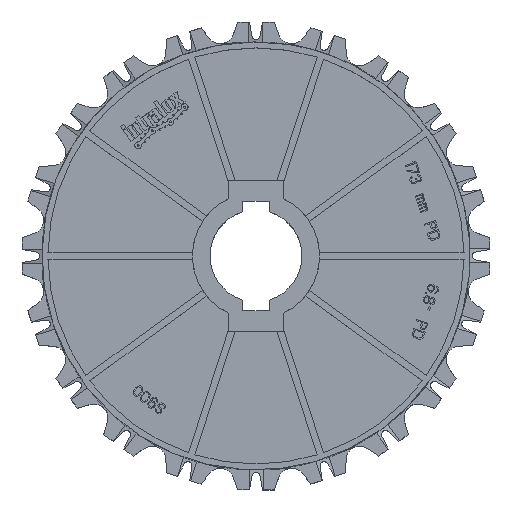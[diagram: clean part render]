
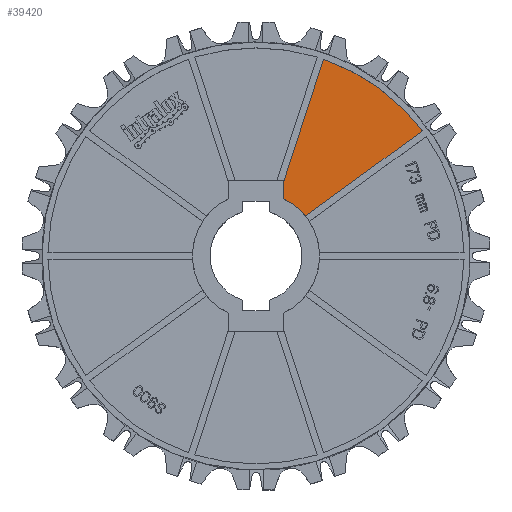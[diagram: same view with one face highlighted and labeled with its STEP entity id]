
A CAD part, top view. The second image highlights one B-rep face of the part: STEP entity #39420.
In plain terms, the highlighted planar face has unit normal (0, 0, 1).
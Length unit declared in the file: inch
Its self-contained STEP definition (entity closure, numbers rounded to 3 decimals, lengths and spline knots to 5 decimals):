
#13207=CARTESIAN_POINT('',(0.,0.,0.09));
#13208=DIRECTION('',(0.,0.,1.));
#13209=DIRECTION('',(0.777,0.63,0.));
#13210=AXIS2_PLACEMENT_3D('',#13207,#13208,#13209);
#13212=DIRECTION('',(0.,1.,0.));
#13213=VECTOR('',#13212,0.26087);
#13214=CARTESIAN_POINT('',(0.415,0.85456,0.09));
#13215=LINE('',#13214,#13213);
#13216=DIRECTION('',(-0.309,-0.951,0.));
#13217=VECTOR('',#13216,1.92351);
#13218=CARTESIAN_POINT('',(1.0094,2.94481,0.09));
#13219=LINE('',#13218,#13217);
#13220=CARTESIAN_POINT('',(0.,0.,0.09));
#13221=DIRECTION('',(0.,0.,1.));
#13222=DIRECTION('',(0.799,0.601,0.));
#13223=AXIS2_PLACEMENT_3D('',#13220,#13221,#13222);
#13225=DIRECTION('',(0.809,0.588,0.));
#13226=VECTOR('',#13225,2.16392);
#13227=CARTESIAN_POINT('',(0.73811,0.59807,0.09));
#13228=LINE('',#13227,#13226);
#20182=CARTESIAN_POINT('',(0.415,0.85456,0.09));
#20183=VERTEX_POINT('',#20182);
#20684=CARTESIAN_POINT('',(2.48876,1.86999,0.09));
#20685=CARTESIAN_POINT('',(1.0094,2.94481,0.09));
#20686=VERTEX_POINT('',#20684);
#20687=VERTEX_POINT('',#20685);
#20760=CARTESIAN_POINT('',(0.73811,0.59807,0.09));
#20761=VERTEX_POINT('',#20760);
#20762=CARTESIAN_POINT('',(0.415,1.11544,0.09));
#20763=VERTEX_POINT('',#20762);
#39408=CARTESIAN_POINT('',(0.,0.,0.09));
#39409=DIRECTION('',(0.,0.,1.));
#39410=DIRECTION('',(0.809,-0.588,0.));
#39411=AXIS2_PLACEMENT_3D('',#39408,#39409,#39410);
#39412=PLANE('',#39411);
#39413=ORIENTED_EDGE('',*,*,#24140,.T.);
#39414=ORIENTED_EDGE('',*,*,#24073,.T.);
#39415=ORIENTED_EDGE('',*,*,#24092,.F.);
#39416=ORIENTED_EDGE('',*,*,#24105,.F.);
#39417=ORIENTED_EDGE('',*,*,#24118,.F.);
#39418=EDGE_LOOP('',(#39413,#39414,#39415,#39416,#39417));
#39419=FACE_OUTER_BOUND('',#39418,.F.);
#39420=ADVANCED_FACE('',(#39419),#39412,.T.);
#13211=CIRCLE('',#13210,0.95);
#13224=CIRCLE('',#13223,3.113);
#24073=EDGE_CURVE('',#20183,#20763,#13215,.T.);
#24092=EDGE_CURVE('',#20687,#20763,#13219,.T.);
#24105=EDGE_CURVE('',#20686,#20687,#13224,.T.);
#24118=EDGE_CURVE('',#20761,#20686,#13228,.T.);
#24140=EDGE_CURVE('',#20761,#20183,#13211,.T.);
